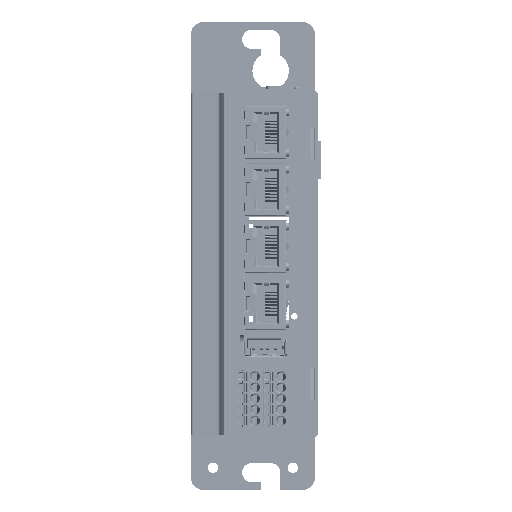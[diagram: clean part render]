
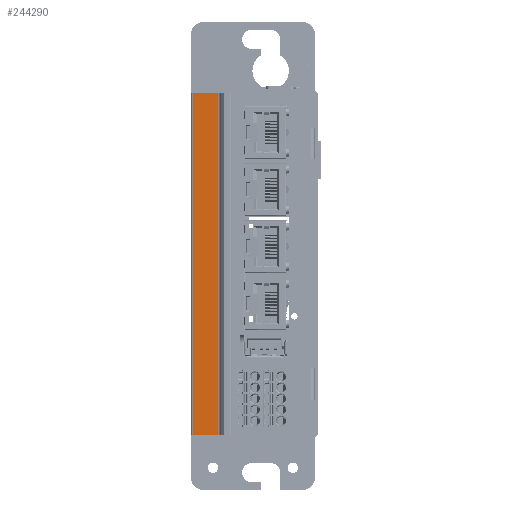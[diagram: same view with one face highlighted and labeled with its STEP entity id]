
A CAD part, left-side view. The second image highlights one B-rep face of the part: STEP entity #244290.
In plain terms, the highlighted planar face has unit normal (-0.998, 0.059, 0).
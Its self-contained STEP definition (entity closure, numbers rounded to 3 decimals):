
#2750 = LINE ( 'NONE', #59194, #159531 ) ;
#5140 = EDGE_CURVE ( 'NONE', #119497, #26355, #2750, .T. ) ;
#10652 = EDGE_CURVE ( 'NONE', #47783, #26355, #55867, .T. ) ;
#15950 = VECTOR ( 'NONE', #173526, 1000. ) ;
#16432 = EDGE_CURVE ( 'NONE', #119497, #133049, #173503, .T. ) ;
#17805 = FACE_OUTER_BOUND ( 'NONE', #119695, .T. ) ;
#26355 = VERTEX_POINT ( 'NONE', #57181 ) ;
#47783 = VERTEX_POINT ( 'NONE', #260974 ) ;
#55867 = LINE ( 'NONE', #232510, #199825 ) ;
#57181 = CARTESIAN_POINT ( 'NONE',  ( -72.011, -5.897, 108. ) ) ;
#59194 = CARTESIAN_POINT ( 'NONE',  ( -72.011, -5.897, 108. ) ) ;
#72865 = EDGE_CURVE ( 'NONE', #133049, #47783, #227206, .T. ) ;
#74346 = DIRECTION ( 'NONE',  ( -0.998, 0.059, 0. ) ) ;
#91194 = CARTESIAN_POINT ( 'NONE',  ( -71.547, 1.957, -11.85 ) ) ;
#97233 = CARTESIAN_POINT ( 'NONE',  ( -71.547, 1.957, 0. ) ) ;
#105886 = ORIENTED_EDGE ( 'NONE', *, *, #10652, .F. ) ;
#119497 = VERTEX_POINT ( 'NONE', #247182 ) ;
#119695 = EDGE_LOOP ( 'NONE', ( #159805, #172703, #105886, #175549 ) ) ;
#133049 = VERTEX_POINT ( 'NONE', #259101 ) ;
#159531 = VECTOR ( 'NONE', #202325, 1000. ) ;
#159805 = ORIENTED_EDGE ( 'NONE', *, *, #16432, .F. ) ;
#172703 = ORIENTED_EDGE ( 'NONE', *, *, #5140, .T. ) ;
#173503 = LINE ( 'NONE', #97233, #228022 ) ;
#173526 = DIRECTION ( 'NONE',  ( 0., 0., 1. ) ) ;
#175549 = ORIENTED_EDGE ( 'NONE', *, *, #72865, .F. ) ;
#193919 = DIRECTION ( 'NONE',  ( -0.059, -0.998, 0. ) ) ;
#196965 = CARTESIAN_POINT ( 'NONE',  ( -71.547, 1.957, -11.85 ) ) ;
#197462 = AXIS2_PLACEMENT_3D ( 'NONE', #196965, #74346, #217579 ) ;
#199825 = VECTOR ( 'NONE', #193919, 1000. ) ;
#202325 = DIRECTION ( 'NONE',  ( 0., 0., 1. ) ) ;
#216696 = PLANE ( 'NONE',  #197462 ) ;
#217579 = DIRECTION ( 'NONE',  ( -0.059, -0.998, 0. ) ) ;
#219883 = DIRECTION ( 'NONE',  ( 0.059, 0.998, 0. ) ) ;
#227206 = LINE ( 'NONE', #91194, #15950 ) ;
#228022 = VECTOR ( 'NONE', #219883, 1000. ) ;
#232510 = CARTESIAN_POINT ( 'NONE',  ( -71.547, 1.957, 108. ) ) ;
#244290 = ADVANCED_FACE ( 'NONE', ( #17805 ), #216696, .T. ) ;
#247182 = CARTESIAN_POINT ( 'NONE',  ( -72.011, -5.897, 0. ) ) ;
#259101 = CARTESIAN_POINT ( 'NONE',  ( -71.547, 1.957, 0. ) ) ;
#260974 = CARTESIAN_POINT ( 'NONE',  ( -71.547, 1.957, 108. ) ) ;
